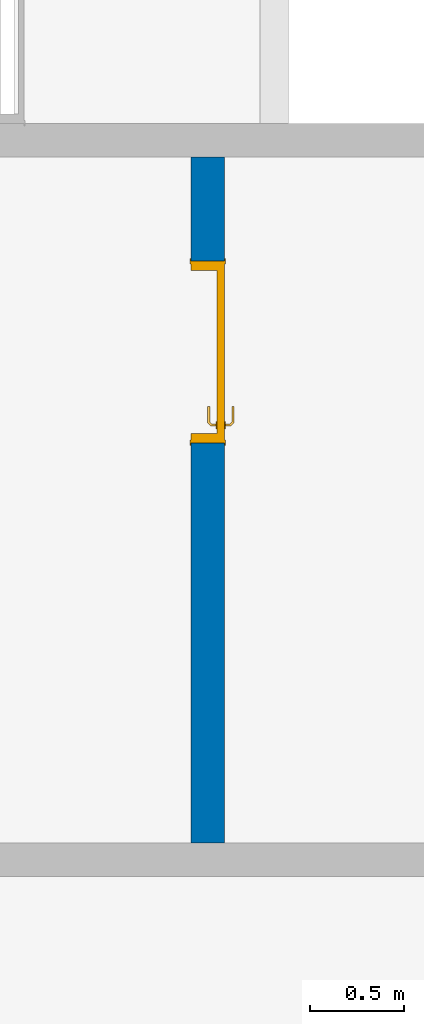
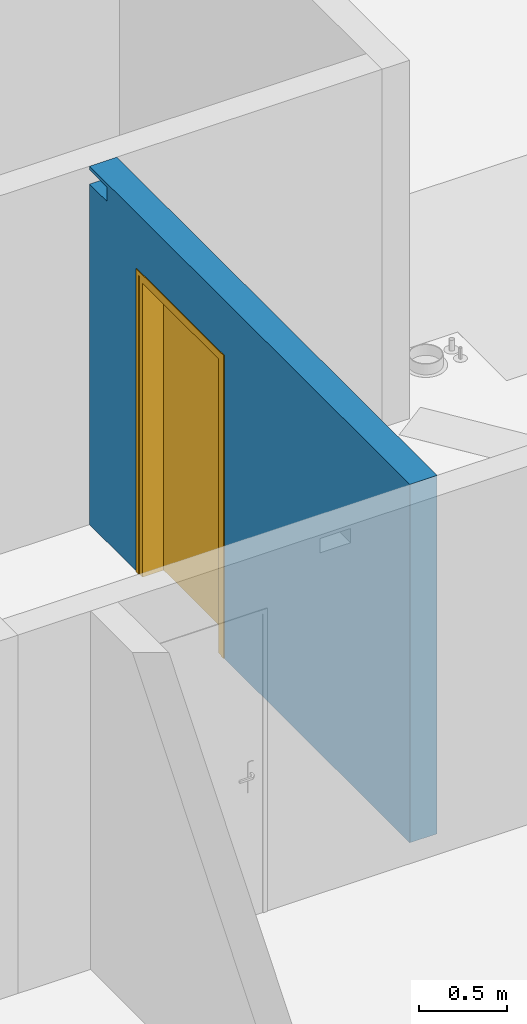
# One storey, part 14 of 28: 1 door, 1 wall, 2 openings.
"""IFC2X3 building model written with IfcOpenShell, lengths in centimetres."""

from ifc_helpers import new_model, entity, si_unit, converted_unit, derived_unit, direction, frame, frame_2d, origin, place, context, subcontext, project, spatial, rectangle, extrude, faceted_brep, source, transform, mapped, material, material_list, layer, layer_set, layer_usage, type_object, type_shapes, element, fill, save


model = new_model("IFC2X3")

# Units and contexts
model_context = context("Model", 3, precision=0.001, world=origin(), true_north=direction((6.12303176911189e-17, 1.0)))
body_context = subcontext(model_context, "Body", "Model", "MODEL_VIEW")
ifc_project = project(units=[si_unit("LENGTHUNIT", "METRE", prefix="CENTI"), si_unit("AREAUNIT", "SQUARE_METRE"), si_unit("VOLUMEUNIT", "CUBIC_METRE"), converted_unit("PLANEANGLEUNIT", "DEGREE", entity("IfcRatioMeasure", 0.0174532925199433), si_unit("PLANEANGLEUNIT", "RADIAN"), dimensions=[0, 0, 0, 0, 0, 0, 0]), si_unit("MASSUNIT", "GRAM", prefix="KILO"), derived_unit("MASSDENSITYUNIT", [(si_unit("MASSUNIT", "GRAM", prefix="KILO"), 1), (si_unit("LENGTHUNIT", "METRE"), -3)]), si_unit("TIMEUNIT", "SECOND"), si_unit("FREQUENCYUNIT", "HERTZ"), si_unit("THERMODYNAMICTEMPERATUREUNIT", "DEGREE_CELSIUS"), derived_unit("THERMALTRANSMITTANCEUNIT", [(si_unit("MASSUNIT", "GRAM", prefix="KILO"), 1), (si_unit("THERMODYNAMICTEMPERATUREUNIT", "KELVIN"), -1), (si_unit("TIMEUNIT", "SECOND"), -3)]), derived_unit("VOLUMETRICFLOWRATEUNIT", [(si_unit("LENGTHUNIT", "METRE"), 3), (si_unit("TIMEUNIT", "SECOND"), -1)]), si_unit("ELECTRICCURRENTUNIT", "AMPERE"), si_unit("ELECTRICVOLTAGEUNIT", "VOLT"), si_unit("POWERUNIT", "WATT"), si_unit("FORCEUNIT", "NEWTON"), si_unit("ILLUMINANCEUNIT", "LUX"), si_unit("LUMINOUSFLUXUNIT", "LUMEN"), si_unit("LUMINOUSINTENSITYUNIT", "CANDELA"), derived_unit("USERDEFINED", [(si_unit("MASSUNIT", "GRAM", prefix="KILO"), -1), (si_unit("LENGTHUNIT", "METRE"), -2), (si_unit("TIMEUNIT", "SECOND"), 3), (si_unit("LUMINOUSFLUXUNIT", "LUMEN"), 1)]), derived_unit("LINEARVELOCITYUNIT", [(si_unit("LENGTHUNIT", "METRE"), 1), (si_unit("TIMEUNIT", "SECOND"), -1)]), si_unit("PRESSUREUNIT", "PASCAL"), derived_unit("USERDEFINED", [(si_unit("LENGTHUNIT", "METRE"), -2), (si_unit("MASSUNIT", "GRAM", prefix="KILO"), 1), (si_unit("TIMEUNIT", "SECOND"), -2)])], contexts=[model_context])

# Site, building, storey
site_placement = place(None, origin())
site = spatial("IfcSite", under=ifc_project, at=site_placement, Name="Default", CompositionType="ELEMENT")
building_placement = place(site_placement, origin())
building = spatial("IfcBuilding", under=site, at=building_placement, Name="CAGE 03", CompositionType="ELEMENT")
storey_placement = place(building_placement, frame((0.0, 0.0, 1420.0)))
storey = spatial("IfcBuildingStorey", under=building, at=storey_placement, Name="R+5", CompositionType="ELEMENT", Elevation=1420.0)

# Wall, openings, door
ifc_material_1 = material(Name="Béton, C25/30")
ifc_layer = layer(ifc_material_1, 18.0)
ifc_layer_set = layer_set([ifc_layer], Name="Mur de base:Voile BA 18")
ifc_layer_usage = layer_usage(ifc_layer_set, "AXIS2", "POSITIVE", -9.0)
wall_type = type_object("IfcWallType", Name="Mur de base:Voile BA 18", PredefinedType="STANDARD", material=ifc_layer_set)
wall_placement = place(storey_placement, frame((10306.3658201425, 4632.66066607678, 0.0), z_axis=(0.0, 0.0, 1.0), x_axis=(0.0, -1.0, 0.0)))
wall = element("IfcWallStandardCase", 1, at=wall_placement, inside=storey, type_object=wall_type, material=ifc_layer_usage, Name="Mur de base:Voile BA 18", ObjectType="Mur de base:Voile BA 18", context=body_context, shape_type="SweptSolid", body=[
    extrude(rectangle(XDim=365.999999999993, YDim=17.9999999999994, at=frame_2d((182.999999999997, 2.33590924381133e-13), x_axis=(-1.0, 0.0))), origin(), (0.0, 0.0, 1.0), 250.0),
])
opening_1_placement = place(wall_placement, origin())
element("IfcOpeningElement", 2, at=opening_1_placement, cuts=wall, Name="Mur de base:Voile BA 18", ObjectType="Opening", context=body_context, shape_type="SweptSolid", body=[
    extrude(rectangle(XDim=10.0000000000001, YDim=19.9999999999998, at=frame_2d((4.33431068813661e-13, -1.08357767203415e-13), x_axis=(0.0, 1.0))), frame((10.0, -9.0, 242.500000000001), z_axis=(0.0, 1.0, 0.0), x_axis=(1.0, 0.0, 0.0)), (0.0, 0.0, 1.0), 17.9999999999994),
])
opening_2_placement = place(wall_placement, frame((55.4999999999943, -9.0, 0.0)))
opening_2 = element("IfcOpeningElement", 3, at=opening_2_placement, cuts=wall, Name="Int. Simple:HB93:1", ObjectType="Opening", context=body_context, shape_type="SweptSolid", body=[
    extrude(rectangle(XDim=210.000000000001, YDim=96.9999999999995, at=frame_2d((105.000000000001, 48.4999999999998), x_axis=(1.0, 0.0))), frame((0.0, 0.0, 0.0), z_axis=(0.0, 1.0, 0.0), x_axis=(0.0, 0.0, 1.0)), (0.0, 0.0, 1.0), 18.0),
])
ifc_material_2 = material(Name="Finition Peinture - Blanc satiné")
ifc_material_3 = material(Name="Bois - Panneau de porte")
ifc_material_4 = material(Name="Bois - Cadre de porte")
ifc_material_list_1 = material_list([ifc_material_2, ifc_material_3, ifc_material_4])
ifc_material_list_2 = material_list([ifc_material_2, ifc_material_3, ifc_material_4])
door_style = type_object("IfcDoorStyle", Name="HB93", ConstructionType="NOTDEFINED", OperationType="SINGLE_SWING_LEFT", ParameterTakesPrecedence=False, Sizeable=False, material=ifc_material_list_2)
shared_shape = source(origin(), body_context, "Body", "Brep", [
    faceted_brep([(10.5352761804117, -0.500000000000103, 86.6003983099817), (11.5000000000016, -0.500000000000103, 87.0), (11.5000000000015, -0.500000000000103, 108.0), (10.5352761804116, -0.500000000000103, 108.399601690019), (9.50000000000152, -0.500000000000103, 108.535898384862), (8.46472381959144, -0.500000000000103, 108.399601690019), (7.50000000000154, -0.500000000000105, 108.0), (7.50000000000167, -0.500000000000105, 87.0), (8.46472381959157, -0.500000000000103, 86.6003983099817), (9.50000000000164, -0.500000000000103, 86.464101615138), (10.5352761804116, 0.0, 108.399601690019), (11.5000000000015, 0.0, 108.0), (11.5000000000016, 0.0, 87.0), (10.5352761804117, 0.0, 86.6003983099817), (9.50000000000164, 0.0, 86.464101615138), (8.46472381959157, 0.0, 86.6003983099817), (7.50000000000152, 0.0, 87.0), (7.50000000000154, 0.0, 108.0), (8.46472381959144, 0.0, 108.399601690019), (9.50000000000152, 0.0, 108.535898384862)], [[[0, 1, 2, 3, 4, 5, 6, 7, 8, 9]], [[10, 11, 12, 13, 14, 15, 16, 17, 18, 19]], [[16, 15, 8, 7]], [[8, 15, 14, 9]], [[14, 13, 0, 9]], [[13, 12, 1, 0]], [[2, 1, 12, 11]], [[11, 10, 3, 2]], [[3, 10, 19, 4]], [[19, 18, 5, 4]], [[18, 17, 6, 5]], [[7, 6, 17, 16]]]),
    faceted_brep([(10.5352761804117, 4.0, 86.6003983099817), (11.5000000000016, 4.0, 87.0), (11.5000000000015, 4.0, 108.0), (10.5352761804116, 4.0, 108.399601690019), (9.50000000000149, 4.0, 108.535898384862), (8.46472381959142, 4.0, 108.399601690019), (7.50000000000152, 4.0, 108.0), (7.50000000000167, 4.0, 87.0), (8.46472381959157, 4.0, 86.6003983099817), (9.50000000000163, 4.0, 86.464101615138), (10.5352761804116, 4.49999999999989, 108.399601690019), (11.5000000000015, 4.4999999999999, 108.0), (11.5000000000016, 4.4999999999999, 87.0), (10.5352761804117, 4.49999999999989, 86.6003983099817), (9.50000000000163, 4.49999999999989, 86.464101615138), (8.46472381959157, 4.49999999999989, 86.6003983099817), (7.50000000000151, 4.49999999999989, 87.0), (7.50000000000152, 4.49999999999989, 108.0), (8.46472381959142, 4.49999999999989, 108.399601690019), (9.50000000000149, 4.49999999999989, 108.535898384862)], [[[0, 1, 2, 3, 4, 5, 6, 7, 8, 9]], [[10, 11, 12, 13, 14, 15, 16, 17, 18, 19]], [[11, 10, 3, 2]], [[3, 10, 19, 4]], [[19, 18, 5, 4]], [[18, 17, 6, 5]], [[7, 6, 17, 16]], [[16, 15, 8, 7]], [[8, 15, 14, 9]], [[14, 13, 0, 9]], [[13, 12, 1, 0]], [[2, 1, 12, 11]]]),
    faceted_brep([(9.29747013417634, -0.500000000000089, 100.778044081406), (9.70252986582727, -0.500000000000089, 100.778044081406), (10.1000000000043, -0.500000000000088, 100.699999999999), (10.1000000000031, -0.500000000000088, 99.3000000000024), (9.70252986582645, -0.500000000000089, 99.2219559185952), (9.29747013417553, -0.500000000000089, 99.221955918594), (8.89999999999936, -0.500000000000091, 99.2999999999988), (8.89999999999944, -0.500000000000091, 100.7), (8.89999999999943, -3.26509507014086, 100.7), (9.29747013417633, -3.10045754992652, 100.778044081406), (10.9023585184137, -4.70534593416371, 100.778044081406), (11.0701397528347, -4.30028620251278, 100.778044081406), (9.70252986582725, -2.93267631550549, 100.778044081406), (10.1000000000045, -2.76803879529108, 100.7), (10.1000000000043, -2.76803879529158, 99.3000000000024), (9.70252986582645, -2.93267631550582, 99.2219559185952), (11.0701397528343, -4.30028620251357, 99.2219559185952), (10.9023585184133, -4.70534593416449, 99.221955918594), (9.29747013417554, -3.10045754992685, 99.221955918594), (8.89999999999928, -3.26509507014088, 99.2999999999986), (10.7377209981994, -5.1028160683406, 100.7), (11.2347772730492, -3.90281606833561, 100.7), (11.2347772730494, -3.90281606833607, 99.3000000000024), (10.7377209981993, -5.10281606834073, 99.2999999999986), (19.5018640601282, -5.1028160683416, 99.2999999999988), (19.5018640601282, -4.70534593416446, 99.221955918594), (19.5018640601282, -4.30028620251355, 99.2219559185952), (19.5018640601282, -3.90281606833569, 99.3000000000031), (19.5018640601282, -3.90281606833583, 100.7), (19.5018640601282, -4.30028620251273, 100.778044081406), (19.5018640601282, -4.70534593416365, 100.778044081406), (19.5018640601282, -5.10281606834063, 100.699999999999), (14.7307697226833, -5.10281606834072, 100.7), (15.28600190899, -4.5028160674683, 100.78786867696), (15.3683206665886, -3.9028160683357, 100.7), (15.3683206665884, -3.90281606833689, 99.3000000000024), (15.2860018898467, -4.50281607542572, 99.2121313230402), (14.7307700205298, -5.10281606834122, 99.2999999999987)], [[[0, 1, 2, 3, 4, 5, 6, 7]], [[8, 9, 0, 7]], [[9, 10, 11, 12, 1, 0]], [[12, 13, 2, 1]], [[3, 2, 13, 14]], [[14, 15, 4, 3]], [[15, 16, 17, 18, 5, 4]], [[18, 19, 6, 5]], [[7, 6, 19, 8]], [[20, 10, 9, 8]], [[11, 21, 13, 12]], [[14, 13, 21, 22]], [[22, 16, 15, 14]], [[17, 23, 19, 18]], [[8, 19, 23, 20]], [[24, 25, 26, 27, 28, 29, 30, 31]], [[32, 30, 33]], [[31, 30, 32]], [[10, 20, 32]], [[33, 34, 11]], [[21, 11, 34]], [[34, 29, 28]], [[30, 29, 33]], [[29, 34, 33]], [[10, 32, 33]], [[10, 33, 11]], [[22, 21, 34, 28, 27, 35]], [[35, 26, 36]], [[37, 36, 25]], [[22, 35, 16]], [[35, 27, 26]], [[24, 37, 25]], [[23, 17, 37]], [[37, 17, 36]], [[17, 16, 36]], [[16, 35, 36]], [[25, 36, 26]], [[20, 23, 37, 24, 31, 32]]]),
    faceted_brep([(9.29747013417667, 4.49999999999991, 100.778044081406), (8.89999999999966, 4.49999999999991, 100.7), (8.89999999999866, 4.49999999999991, 99.2999999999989), (9.2974701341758, 4.49999999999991, 99.221955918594), (9.70252986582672, 4.49999999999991, 99.2219559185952), (10.1000000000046, 4.49999999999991, 99.3000000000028), (10.1000000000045, 4.49999999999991, 100.7), (9.70252986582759, 4.49999999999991, 100.778044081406), (10.1000000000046, 6.7485204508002, 99.3000000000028), (10.1000000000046, 6.74852045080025, 100.7), (9.70252986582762, 6.91315797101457, 100.778044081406), (11.0838906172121, 8.29451872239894, 100.778044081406), (10.9161093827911, 8.69957845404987, 100.778044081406), (9.29747013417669, 7.0809392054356, 100.778044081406), (8.89999999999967, 7.24557672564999, 100.7), (8.89999999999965, 7.24557672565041, 99.2999999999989), (9.29747013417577, 7.08093920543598, 99.221955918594), (10.9161093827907, 8.69957845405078, 99.221955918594), (11.0838906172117, 8.29451872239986, 99.2219559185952), (9.7025298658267, 6.91315797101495, 99.2219559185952), (11.2485281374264, 7.89704858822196, 99.3000000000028), (11.2485281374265, 7.89704858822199, 100.7), (10.7514718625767, 9.0970485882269, 100.7), (10.751471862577, 9.0970485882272, 99.2999999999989), (19.504578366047, 7.89704858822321, 99.3000000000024), (19.504578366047, 8.29451872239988, 99.2219559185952), (19.504578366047, 8.6995784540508, 99.221955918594), (19.504578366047, 9.09704858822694, 99.2999999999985), (19.504578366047, 9.09704858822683, 100.7), (19.504578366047, 8.69957845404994, 100.778044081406), (19.504578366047, 8.29451872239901, 100.778044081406), (19.504578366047, 7.89704858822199, 100.7), (15.3765520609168, 7.89704858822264, 99.3000000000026), (15.3765532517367, 7.89704858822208, 100.7), (15.294234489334, 8.49704858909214, 100.78786867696), (14.7445205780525, 9.09704858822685, 100.7), (14.7445204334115, 9.09704858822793, 99.2999999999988), (15.2942345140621, 8.49704858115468, 99.2121313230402)], [[[0, 1, 2, 3, 4, 5, 6, 7]], [[6, 5, 8, 9]], [[9, 10, 7, 6]], [[10, 11, 12, 13, 0, 7]], [[13, 14, 1, 0]], [[2, 1, 14, 15]], [[15, 16, 3, 2]], [[16, 17, 18, 19, 4, 3]], [[19, 8, 5, 4]], [[9, 8, 20, 21]], [[21, 11, 10, 9]], [[12, 22, 14, 13]], [[15, 14, 22, 23]], [[23, 17, 16, 15]], [[18, 20, 8, 19]], [[24, 25, 26, 27, 28, 29, 30, 31]], [[21, 20, 32, 24, 31, 33]], [[33, 30, 34]], [[35, 34, 29]], [[21, 33, 11]], [[33, 31, 30]], [[28, 35, 29]], [[22, 12, 35]], [[35, 12, 34]], [[12, 11, 34]], [[11, 33, 34]], [[29, 34, 30]], [[22, 35, 28, 27, 36, 23]], [[36, 26, 37]], [[27, 26, 36]], [[17, 23, 36]], [[37, 32, 18]], [[20, 18, 32]], [[32, 25, 24]], [[26, 25, 37]], [[25, 32, 37]], [[17, 36, 37]], [[17, 37, 18]]]),
    faceted_brep([(3.50000000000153, 4.0, 206.5), (93.5000000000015, 4.0, 206.5), (93.5000000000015, 4.0, 0.0), (3.50000000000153, 4.0, 0.0), (3.50000000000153, 0.0, 206.5), (3.50000000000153, 0.0, 0.0), (93.5000000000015, 0.0, 0.0), (93.5000000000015, 0.0, 206.5)], [[[0, 1, 2, 3]], [[4, 5, 6, 7]], [[1, 0, 4, 7]], [[2, 1, 7, 6]], [[3, 2, 6, 5]], [[0, 3, 5, 4]]]),
    faceted_brep([(0.0, 0.0, 0.0), (0.0, 18.0, 0.0), (5.0, 18.0, 0.0), (5.0, 4.0, 0.0), (3.50000000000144, 4.0, 0.0), (3.50000000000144, 0.0, 0.0), (0.0, 0.0, 210.0), (0.0, 18.0, 210.0), (97.0, 18.0, 210.0), (97.0, 18.0, 0.0), (92.0, 18.0, 0.0), (92.0, 18.0, 205.0), (5.0, 18.0, 205.0), (5.0, 4.0, 205.0), (92.0, 4.0, 205.0), (92.0, 4.0, 0.0), (93.4999999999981, 4.0, 0.0), (93.4999999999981, 4.0, 206.5), (3.50000000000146, 4.0, 206.5), (3.50000000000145, 0.0, 206.5), (93.4999999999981, 0.0, 206.5), (93.4999999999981, 0.0, 0.0), (97.0, 0.0, 0.0), (97.0, 0.0, 210.0)], [[[0, 1, 2, 3, 4, 5]], [[1, 0, 6, 7]], [[2, 1, 7, 8, 9, 10, 11, 12]], [[3, 2, 12, 13]], [[4, 3, 13, 14, 15, 16, 17, 18]], [[5, 4, 18, 19]], [[0, 5, 19, 20, 21, 22, 23, 6]], [[8, 23, 22, 9]], [[22, 21, 16, 15, 10, 9]], [[14, 11, 10, 15]], [[20, 17, 16, 21]], [[7, 6, 23, 8]], [[13, 12, 11, 14]], [[19, 18, 17, 20]]]),
    faceted_brep([(1.5, 18.0, 0.0), (-1.49999999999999, 18.0, 0.0), (-1.49999999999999, 18.5000000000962, 0.0), (1.5, 18.5000000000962, 0.0), (1.5, 18.0, 208.500000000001), (95.4999999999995, 18.0, 208.500000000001), (95.4999999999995, 18.0, 0.0), (98.4999999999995, 18.0, 0.0), (98.4999999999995, 18.0, 211.500000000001), (-1.49999999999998, 18.0, 211.500000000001), (-1.49999999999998, 18.5000000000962, 211.500000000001), (98.4999999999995, 18.5000000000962, 211.500000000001), (98.4999999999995, 18.5000000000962, 0.0), (95.4999999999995, 18.5000000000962, 0.0), (95.4999999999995, 18.5000000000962, 208.500000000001), (1.50000000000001, 18.5000000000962, 208.500000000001)], [[[0, 1, 2, 3]], [[1, 0, 4, 5, 6, 7, 8, 9]], [[2, 1, 9, 10]], [[3, 2, 10, 11, 12, 13, 14, 15]], [[0, 3, 15, 4]], [[6, 13, 12, 7]], [[5, 14, 13, 6]], [[11, 8, 7, 12]], [[10, 9, 8, 11]], [[4, 15, 14, 5]]]),
    faceted_brep([(-1.49999999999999, -0.5, 0.0), (1.5, -0.5, 0.0), (1.5, -0.5, 208.500000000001), (95.4999999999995, -0.5, 208.500000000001), (95.4999999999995, -0.5, 0.0), (98.4999999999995, -0.5, 0.0), (98.4999999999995, -0.5, 211.500000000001), (-1.49999999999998, -0.5, 211.500000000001), (-1.49999999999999, 0.0, 0.0), (-1.49999999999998, 0.0, 211.500000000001), (1.5, 0.0, 0.0), (98.4999999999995, 0.0, 211.500000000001), (98.4999999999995, 0.0, 0.0), (95.4999999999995, 0.0, 0.0), (95.4999999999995, 0.0, 208.500000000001), (1.50000000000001, 0.0, 208.500000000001)], [[[0, 1, 2, 3, 4, 5, 6, 7]], [[8, 0, 7, 9]], [[10, 8, 9, 11, 12, 13, 14, 15]], [[1, 10, 15, 2]], [[3, 14, 13, 4]], [[11, 6, 5, 12]], [[9, 7, 6, 11]], [[2, 15, 14, 3]], [[4, 13, 12, 5]], [[1, 0, 8, 10]]]),
])
type_shapes(door_style, [shared_shape])
door_placement = place(opening_2_placement, frame((97.0, 18.0, 0.0), z_axis=(0.0, 0.0, 1.0), x_axis=(-1.0, 0.0, 0.0)))
door = element("IfcDoor", 4, at=door_placement, inside=storey, type_object=door_style, material=ifc_material_list_1, Name="Int. Simple:HB93", ObjectType="HB93", OverallHeight=210.000000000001, OverallWidth=96.9999999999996, context=body_context, shape_type="MappedRepresentation", body=[
    mapped(shared_shape, transform((0.0, 0.0, 0.0), scale=1.0)),
])
fill(opening_2, door)

save(model, "model.ifc")
